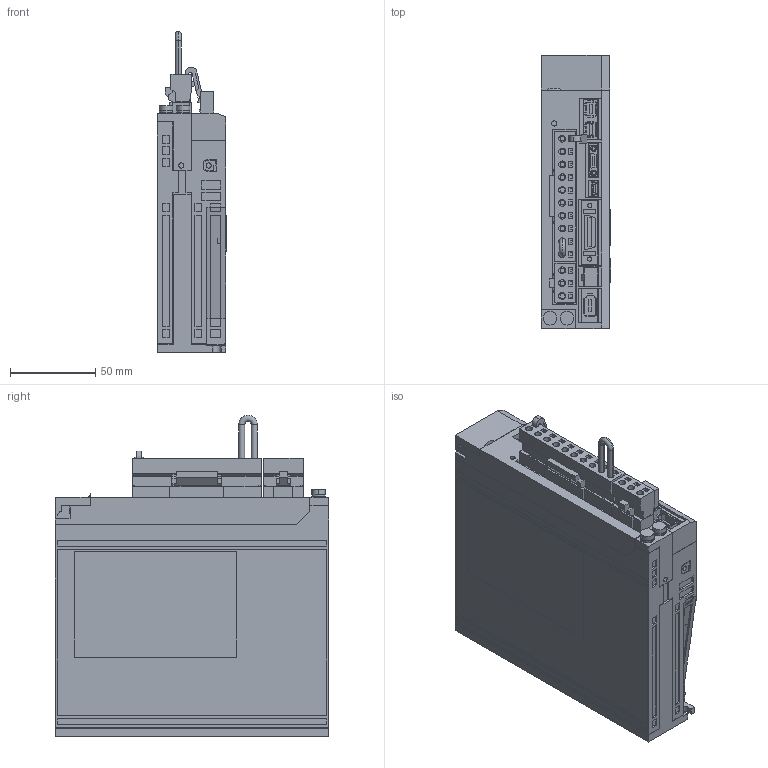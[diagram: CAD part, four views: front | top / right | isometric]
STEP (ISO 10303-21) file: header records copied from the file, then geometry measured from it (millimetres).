
FILE_DESCRIPTION (( 'STEP AP203' ), '1' );
FILE_NAME ('sgdv_r70a2_b.STEP', '2012-09-04T04:45:38', ( '匠エンジニアリング山之内' ), ( 'TAKUMI-Engniaring' ), 'SwSTEP 2.0', 'SolidWorks 2006303', '' );
FILE_SCHEMA (( 'CONFIG_CONTROL_DESIGN' ));
Length unit declared in the file: millimetre
Products named in the file (10): sgdv_r70a2_b_connector; sgdv_r70a2_b_cover; sgdv_r70a2_b_cover2; sgdv_r70a2_b_base; sgdv_r70a2_b; sgdv_r70a2_b_connector_2; sgdv_r70a2_b_cable; sgdv_r70a2_b_pin; sgdv_r70a2_b_connector_1; sgdv_r70a2_b_connector_3
Assembly tree (10 placements, depth 3):
  sgdv_r70a2_b
    sgdv_r70a2_b_connector_1
    sgdv_r70a2_b_cover2  x2
    sgdv_r70a2_b_cover
    sgdv_r70a2_b_connector
      sgdv_r70a2_b_cable
      sgdv_r70a2_b_pin
      sgdv_r70a2_b_connector_2
    sgdv_r70a2_b_base
    sgdv_r70a2_b_connector_3
Bounding box: 40.5 x 160 x 188 mm (x, y, z)
Volume: 830377 mm3; surface area: 134464.9 mm2
Topology: 9 solids, 9 shells, 1889 faces, 4999 edges, 3286 vertices
Faces by surface type: plane 1721, cylinder 161, cone 4, torus 2, sphere 1
Entity records: 57850 total; most frequent: CARTESIAN_POINT 10077, ORIENTED_EDGE 9890, DIRECTION 9042, EDGE_CURVE 4945, VECTOR 4612, LINE 4612, VERTEX_POINT 3250, AXIS2_PLACEMENT_3D 2215
